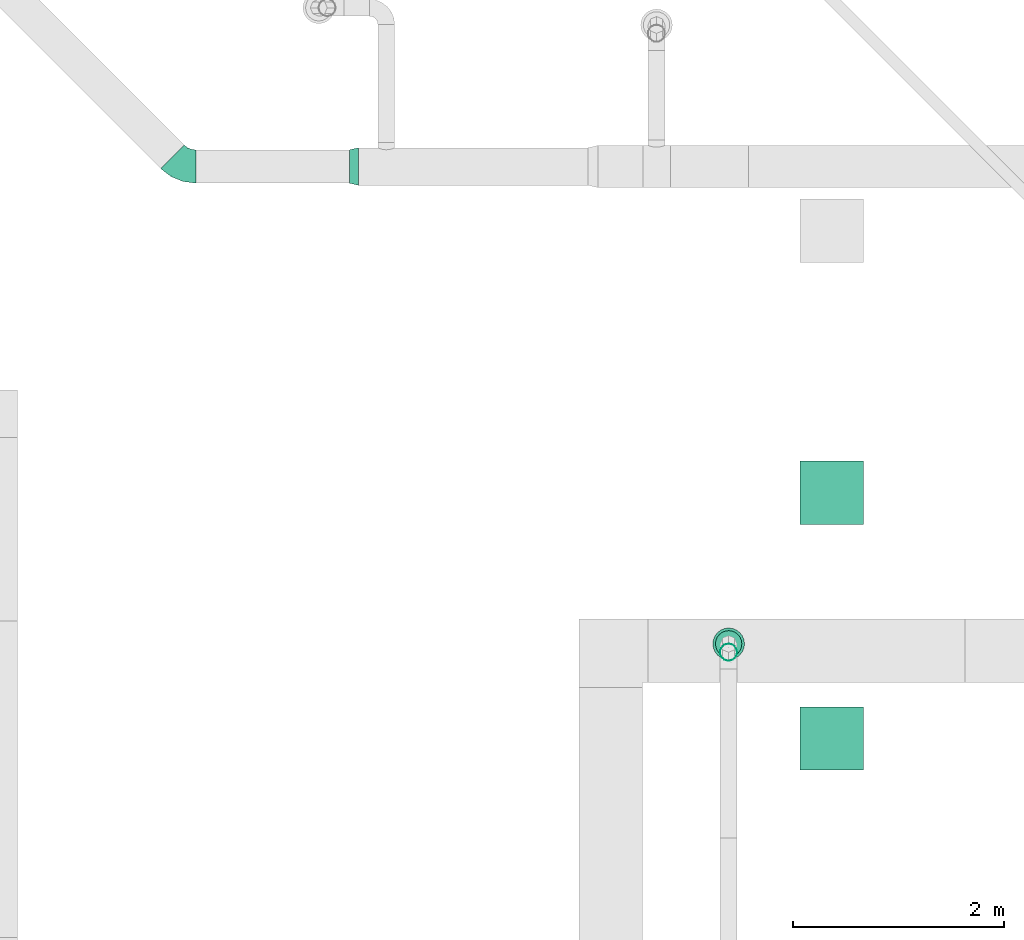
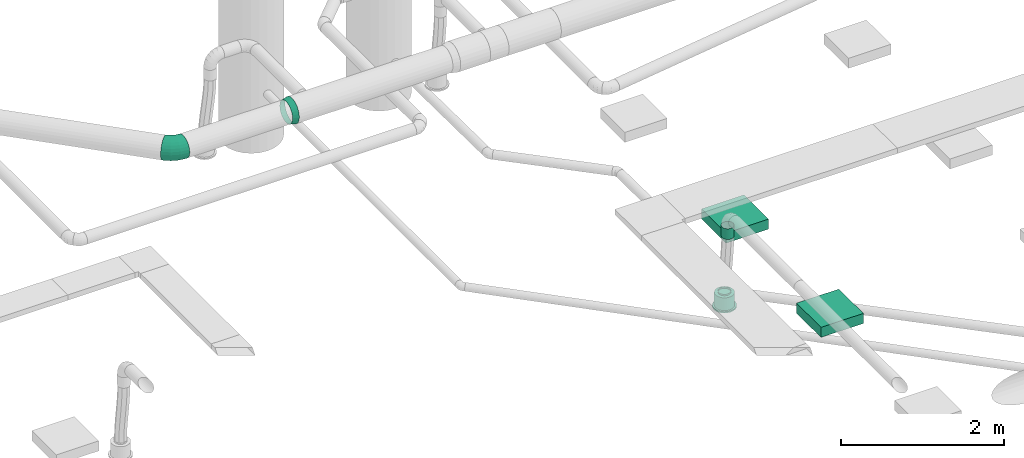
# One storey, part 143 of 374: 2 distribution elements, 2 flow fittings, 1 flow segment, 1 flow terminal.
"""IFC2X3 building model written with IfcOpenShell, lengths in metres."""

from ifc_helpers import new_model, si_unit, direction, frame, frame_2d, origin, place, context, subcontext, project, spatial, rectangle, extrude, open_shell, surface_model, source, transform, mapped, element, save


model = new_model("IFC2X3")

# Units and contexts
model_context = context("Model", 3, precision=1e-05, world=origin(), true_north=direction((-0.4480736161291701, 0.8939966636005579)))
body_context = subcontext(model_context, "Body", "Model", "MODEL_VIEW")
ifc_project = project(units=[si_unit("LENGTHUNIT", "METRE"), si_unit("AREAUNIT", "SQUARE_METRE"), si_unit("VOLUMEUNIT", "CUBIC_METRE"), si_unit("PLANEANGLEUNIT", "RADIAN"), si_unit("THERMODYNAMICTEMPERATUREUNIT", "KELVIN"), si_unit("MASSUNIT", "GRAM", prefix="KILO"), si_unit("TIMEUNIT", "SECOND")], contexts=[model_context])

# Site, building, storey
site_placement = place(None, origin())
site = spatial("IfcSite", under=ifc_project, at=site_placement, Name="Site 1", CompositionType="ELEMENT")
building_placement = place(site_placement, origin())
building = spatial("IfcBuilding", under=site, at=building_placement, Name="Undefined", CompositionType="ELEMENT")
storey_placement = place(building_placement, origin())
storey = spatial("IfcBuildingStorey", under=building, at=storey_placement, Name="Rez de chauss\x8ee", CompositionType="ELEMENT", Elevation=0.0)

# Flow terminal
shared_shape_1 = source(origin(), body_context, "Body", "SurfaceModel", [
    surface_model("IfcFaceBasedSurfaceModel", [(0.0, 0.0, 0.0), (0.03915785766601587, 0.0, 0.0), (0.03915785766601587, 0.020000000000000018, 0.0), (3.552713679e-15, 0.020000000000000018, 0.0), (0.07698144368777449, 0.0, -0.010134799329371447), (0.07698144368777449, 0.020000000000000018, -0.010134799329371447), (0.11089314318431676, 0.0, -0.02971372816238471), (0.11089314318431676, 0.020000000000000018, -0.02971372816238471), (0.13858192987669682, 0.0, -0.05740251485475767), (0.13858192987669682, 0.020000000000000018, -0.05740251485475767), (0.15816085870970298, 0.0, -0.09131421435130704), (0.15816085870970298, 0.020000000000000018, -0.09131421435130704), (0.16829565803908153, 0.0, -0.12913780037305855), (0.16829565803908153, 0.020000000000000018, -0.12913780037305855), (0.16829565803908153, 0.0, -0.16829565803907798), (0.16829565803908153, 0.020000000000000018, -0.16829565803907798), (0.15816085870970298, 0.0, -0.20611924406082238), (0.15816085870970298, 0.020000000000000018, -0.20611924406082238), (0.13858192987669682, 0.0, -0.24003094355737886), (0.13858192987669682, 0.020000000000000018, -0.24003094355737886), (0.11089314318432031, 0.0, -0.2677197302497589), (0.11089314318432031, 0.020000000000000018, -0.2677197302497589), (0.07698144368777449, 0.0, -0.2872986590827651), (0.07698144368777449, 0.020000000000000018, -0.2872986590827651), (0.039157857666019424, 0.0, -0.29743345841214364), (0.039157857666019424, 0.020000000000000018, -0.29743345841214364), (3.552713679e-15, 0.0, -0.29743345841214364), (3.552713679e-15, 0.020000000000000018, -0.29743345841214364), (-0.03782358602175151, 0.0, -0.2872986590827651), (-0.03782358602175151, 0.020000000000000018, -0.2872986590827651), (-0.07173528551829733, 0.0, -0.2677197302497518), (-0.07173528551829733, 0.020000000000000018, -0.2677197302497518), (-0.0994240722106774, 0.0, -0.24003094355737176), (-0.0994240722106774, 0.020000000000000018, -0.24003094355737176), (-0.11900300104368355, 0.0, -0.2061192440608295), (-0.11900300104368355, 0.020000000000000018, -0.2061192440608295), (-0.1291378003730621, 0.0, -0.16829565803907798), (-0.1291378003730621, 0.020000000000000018, -0.16829565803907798), (-0.1291378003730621, 0.0, -0.12913780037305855), (-0.1291378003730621, 0.020000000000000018, -0.12913780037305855), (-0.11900300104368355, 0.0, -0.09131421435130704), (-0.11900300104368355, 0.020000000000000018, -0.09131421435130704), (-0.0994240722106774, 0.0, -0.05740251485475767), (-0.0994240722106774, 0.020000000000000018, -0.05740251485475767), (-0.07173528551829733, 0.0, -0.029713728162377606), (-0.07173528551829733, 0.020000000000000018, -0.029713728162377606), (-0.03782358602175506, 0.0, -0.010134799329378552), (-0.03782358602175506, 0.020000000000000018, -0.010134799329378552), (0.019578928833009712, 0.0, -0.14871672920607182), (0.019578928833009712, 0.020000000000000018, -0.14871672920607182), (0.003263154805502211, 0.020000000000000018, -0.02478612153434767), (0.035894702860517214, 0.020000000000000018, -0.02478612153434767), (0.035894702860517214, 0.20999999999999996, -0.02478612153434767), (0.003263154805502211, 0.20999999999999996, -0.02478612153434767), (0.06741435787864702, 0.020000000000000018, -0.033231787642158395), (0.06741435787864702, 0.20999999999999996, -0.033231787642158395), (0.0956741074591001, 0.020000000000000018, -0.04954756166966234), (0.0956741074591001, 0.20999999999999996, -0.04954756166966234), (0.11874809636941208, 0.020000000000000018, -0.07262155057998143), (0.11874809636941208, 0.20999999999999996, -0.07262155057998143), (0.13506387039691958, 0.020000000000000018, -0.10088130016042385), (0.13506387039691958, 0.20999999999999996, -0.10088130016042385), (0.1435095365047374, 0.020000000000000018, -0.13240095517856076), (0.1435095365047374, 0.20999999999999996, -0.13240095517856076), (0.1435095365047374, 0.020000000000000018, -0.16503250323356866), (0.1435095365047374, 0.20999999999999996, -0.16503250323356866), (0.13506387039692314, 0.020000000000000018, -0.19655215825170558), (0.13506387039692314, 0.20999999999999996, -0.19655215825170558), (0.11874809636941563, 0.020000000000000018, -0.2248119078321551), (0.11874809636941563, 0.20999999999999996, -0.2248119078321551), (0.09567410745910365, 0.020000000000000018, -0.24788589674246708), (0.09567410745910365, 0.20999999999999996, -0.24788589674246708), (0.06741435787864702, 0.020000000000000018, -0.26420167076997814), (0.06741435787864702, 0.20999999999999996, -0.26420167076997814), (0.035894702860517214, 0.020000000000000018, -0.27264733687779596), (0.035894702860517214, 0.20999999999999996, -0.27264733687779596), (0.0032631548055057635, 0.020000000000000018, -0.27264733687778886), (0.0032631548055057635, 0.20999999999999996, -0.27264733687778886), (-0.028256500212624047, 0.020000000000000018, -0.26420167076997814), (-0.028256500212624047, 0.20999999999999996, -0.26420167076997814), (-0.05651624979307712, 0.020000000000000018, -0.2478858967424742), (-0.05651624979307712, 0.20999999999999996, -0.2478858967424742), (-0.07959023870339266, 0.020000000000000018, -0.2248119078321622), (-0.07959023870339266, 0.20999999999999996, -0.2248119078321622), (-0.09590601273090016, 0.020000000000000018, -0.19655215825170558), (-0.09590601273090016, 0.20999999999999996, -0.19655215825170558), (-0.10435167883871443, 0.020000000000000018, -0.16503250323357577), (-0.10435167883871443, 0.20999999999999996, -0.16503250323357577), (-0.10435167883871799, 0.020000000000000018, -0.13240095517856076), (-0.10435167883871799, 0.20999999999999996, -0.13240095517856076), (-0.09590601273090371, 0.020000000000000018, -0.10088130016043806), (-0.09590601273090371, 0.20999999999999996, -0.10088130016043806), (-0.07959023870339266, 0.020000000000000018, -0.07262155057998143), (-0.07959023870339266, 0.20999999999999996, -0.07262155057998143), (-0.056516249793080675, 0.020000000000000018, -0.04954756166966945), (-0.056516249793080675, 0.20999999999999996, -0.04954756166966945), (-0.028256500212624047, 0.020000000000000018, -0.033231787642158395), (-0.028256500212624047, 0.20999999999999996, -0.033231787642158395), (0.019578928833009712, 0.20999999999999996, -0.14871672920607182), (0.009136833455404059, 0.20999999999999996, -0.06940114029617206), (0.030021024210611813, 0.20999999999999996, -0.06940114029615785), (0.030021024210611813, 0.22999999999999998, -0.06940114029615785), (0.009136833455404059, 0.22999999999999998, -0.06940114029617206), (0.05019360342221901, 0.20999999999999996, -0.07480636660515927), (0.05019360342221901, 0.22999999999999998, -0.07480636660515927), (0.06827984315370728, 0.20999999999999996, -0.08524846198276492), (0.06827984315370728, 0.22999999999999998, -0.08524846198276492), (0.0830471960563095, 0.20999999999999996, -0.10001581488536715), (0.0830471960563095, 0.22999999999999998, -0.10001581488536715), (0.0934892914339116, 0.20999999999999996, -0.11810205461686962), (0.0934892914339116, 0.22999999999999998, -0.11810205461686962), (0.09889451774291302, 0.20999999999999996, -0.13827463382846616), (0.09889451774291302, 0.22999999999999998, -0.13827463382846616), (0.09889451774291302, 0.20999999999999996, -0.15915882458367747), (0.09889451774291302, 0.22999999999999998, -0.15915882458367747), (0.09348929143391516, 0.20999999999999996, -0.179331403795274), (0.09348929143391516, 0.22999999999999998, -0.179331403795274), (0.0830471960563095, 0.20999999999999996, -0.19741764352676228), (0.0830471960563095, 0.22999999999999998, -0.19741764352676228), (0.06827984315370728, 0.20999999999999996, -0.2121849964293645), (0.06827984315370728, 0.22999999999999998, -0.2121849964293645), (0.05019360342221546, 0.20999999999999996, -0.22262709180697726), (0.05019360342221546, 0.22999999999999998, -0.22262709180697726), (0.030021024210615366, 0.20999999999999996, -0.22803231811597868), (0.030021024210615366, 0.22999999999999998, -0.22803231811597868), (0.009136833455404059, 0.20999999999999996, -0.22803231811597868), (0.009136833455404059, 0.22999999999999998, -0.22803231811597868), (-0.011035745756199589, 0.20999999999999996, -0.22262709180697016), (-0.011035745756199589, 0.22999999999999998, -0.22262709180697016), (-0.0291219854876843, 0.20999999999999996, -0.2121849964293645), (-0.0291219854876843, 0.22999999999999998, -0.2121849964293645), (-0.043889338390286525, 0.20999999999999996, -0.19741764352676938), (-0.043889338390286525, 0.22999999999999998, -0.19741764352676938), (-0.05433143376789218, 0.20999999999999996, -0.17933140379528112), (-0.05433143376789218, 0.22999999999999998, -0.17933140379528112), (-0.05973666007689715, 0.20999999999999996, -0.15915882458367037), (-0.05973666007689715, 0.22999999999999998, -0.15915882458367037), (-0.0597366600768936, 0.20999999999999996, -0.13827463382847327), (-0.0597366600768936, 0.22999999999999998, -0.13827463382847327), (-0.05433143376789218, 0.20999999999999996, -0.11810205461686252), (-0.05433143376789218, 0.22999999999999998, -0.11810205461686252), (-0.043889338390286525, 0.20999999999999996, -0.10001581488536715), (-0.043889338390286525, 0.22999999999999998, -0.10001581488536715), (-0.02912198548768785, 0.20999999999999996, -0.08524846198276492), (-0.02912198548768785, 0.22999999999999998, -0.08524846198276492), (-0.011035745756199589, 0.20999999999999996, -0.07480636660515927), (-0.011035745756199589, 0.22999999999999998, -0.07480636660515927)], [open_shell([[[0, 1, 2, 3]], [[1, 4, 5, 2]], [[4, 6, 7, 5]], [[6, 8, 9, 7]], [[8, 10, 11, 9]], [[10, 12, 13, 11]], [[12, 14, 15, 13]], [[14, 16, 17, 15]], [[16, 18, 19, 17]], [[18, 20, 21, 19]], [[20, 22, 23, 21]], [[22, 24, 25, 23]], [[24, 26, 27, 25]], [[26, 28, 29, 27]], [[28, 30, 31, 29]], [[30, 32, 33, 31]], [[32, 34, 35, 33]], [[34, 36, 37, 35]], [[36, 38, 39, 37]], [[38, 40, 41, 39]], [[40, 42, 43, 41]], [[42, 44, 45, 43]], [[44, 46, 47, 45]], [[46, 0, 3, 47]], [[48, 1, 0]], [[48, 4, 1]], [[48, 6, 4]], [[48, 8, 6]], [[48, 10, 8]], [[48, 12, 10]], [[48, 14, 12]], [[48, 16, 14]], [[48, 18, 16]], [[48, 20, 18]], [[48, 22, 20]], [[48, 24, 22]], [[48, 26, 24]], [[48, 28, 26]], [[48, 30, 28]], [[48, 32, 30]], [[48, 34, 32]], [[48, 36, 34]], [[48, 38, 36]], [[48, 40, 38]], [[48, 42, 40]], [[48, 44, 42]], [[48, 46, 44]], [[48, 0, 46]], [[49, 47, 3]], [[49, 45, 47]], [[49, 43, 45]], [[49, 41, 43]], [[49, 39, 41]], [[49, 37, 39]], [[49, 35, 37]], [[49, 33, 35]], [[49, 31, 33]], [[49, 29, 31]], [[49, 27, 29]], [[49, 25, 27]], [[49, 23, 25]], [[49, 21, 23]], [[49, 19, 21]], [[49, 17, 19]], [[49, 15, 17]], [[49, 13, 15]], [[49, 11, 13]], [[49, 9, 11]], [[49, 7, 9]], [[49, 5, 7]], [[49, 2, 5]], [[49, 3, 2]], [[50, 51, 52, 53]], [[51, 54, 55, 52]], [[54, 56, 57, 55]], [[56, 58, 59, 57]], [[58, 60, 61, 59]], [[60, 62, 63, 61]], [[62, 64, 65, 63]], [[64, 66, 67, 65]], [[66, 68, 69, 67]], [[68, 70, 71, 69]], [[70, 72, 73, 71]], [[72, 74, 75, 73]], [[74, 76, 77, 75]], [[76, 78, 79, 77]], [[78, 80, 81, 79]], [[80, 82, 83, 81]], [[82, 84, 85, 83]], [[84, 86, 87, 85]], [[86, 88, 89, 87]], [[88, 90, 91, 89]], [[90, 92, 93, 91]], [[92, 94, 95, 93]], [[94, 96, 97, 95]], [[96, 50, 53, 97]], [[49, 51, 50]], [[49, 54, 51]], [[49, 56, 54]], [[49, 58, 56]], [[49, 60, 58]], [[49, 62, 60]], [[49, 64, 62]], [[49, 66, 64]], [[49, 68, 66]], [[49, 70, 68]], [[49, 72, 70]], [[49, 74, 72]], [[49, 76, 74]], [[49, 78, 76]], [[49, 80, 78]], [[49, 82, 80]], [[49, 84, 82]], [[49, 86, 84]], [[49, 88, 86]], [[49, 90, 88]], [[49, 92, 90]], [[49, 94, 92]], [[49, 96, 94]], [[49, 50, 96]], [[98, 97, 53]], [[98, 95, 97]], [[98, 93, 95]], [[98, 91, 93]], [[98, 89, 91]], [[98, 87, 89]], [[98, 85, 87]], [[98, 83, 85]], [[98, 81, 83]], [[98, 79, 81]], [[98, 77, 79]], [[98, 75, 77]], [[98, 73, 75]], [[98, 71, 73]], [[98, 69, 71]], [[98, 67, 69]], [[98, 65, 67]], [[98, 63, 65]], [[98, 61, 63]], [[98, 59, 61]], [[98, 57, 59]], [[98, 55, 57]], [[98, 52, 55]], [[98, 53, 52]], [[99, 100, 101, 102]], [[100, 103, 104, 101]], [[103, 105, 106, 104]], [[105, 107, 108, 106]], [[107, 109, 110, 108]], [[109, 111, 112, 110]], [[111, 113, 114, 112]], [[113, 115, 116, 114]], [[115, 117, 118, 116]], [[117, 119, 120, 118]], [[119, 121, 122, 120]], [[121, 123, 124, 122]], [[123, 125, 126, 124]], [[125, 127, 128, 126]], [[127, 129, 130, 128]], [[129, 131, 132, 130]], [[131, 133, 134, 132]], [[133, 135, 136, 134]], [[135, 137, 138, 136]], [[137, 139, 140, 138]], [[139, 141, 142, 140]], [[141, 143, 144, 142]], [[143, 145, 146, 144]], [[145, 99, 102, 146]]])]),
])
flow_terminal_placement = place(storey_placement, origin())
element("IfcFlowTerminal", 1, at=flow_terminal_placement, inside=storey, Name="Air diffuseur - bouche", ObjectType="Air diffuseur - bouche", context=body_context, shape_type="MappedRepresentation", body=[
    mapped(shared_shape_1, transform((34.97599586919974, 15.85834881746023, 2.38), x_axis=(0.9914448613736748, 0.13052619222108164, 0.0), y_axis=(0.0, 0.0, 1.0), z_axis=(0.13052619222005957, -0.9914448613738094, 0.0))),
])

# Flow fittings
shared_shape_2 = source(origin(), body_context, "Body", "SurfaceModel", [
    surface_model("IfcFaceBasedSurfaceModel", [(0.08732124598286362, 1.776356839e-15, 7.105427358e-15), (0.08593597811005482, 0.0463160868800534, 0.0), (-0.0012291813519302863, 0.04109737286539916, 4.4408921e-16), (0.0, 0.0, 0.0), (0.08187457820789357, 0.09097253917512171, -0.011679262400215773), (-0.004832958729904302, 0.08072211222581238, -0.010363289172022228), (0.07541382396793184, 0.13092609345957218, -0.0342418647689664), (-0.010565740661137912, 0.1161738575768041, -0.030383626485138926), (0.06699400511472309, 0.16345398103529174, -0.06615020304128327), (-0.018036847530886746, 0.1450366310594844, -0.05869665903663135), (0.05718891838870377, 0.18633948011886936, -0.1052297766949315), (-0.02673713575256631, 0.1653434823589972, -0.09337290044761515), (0.04666676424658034, 0.1980229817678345, -0.14881737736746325), (-0.03607369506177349, 0.17571053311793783, -0.1320492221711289), (0.03614461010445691, 0.1977082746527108, -0.19394258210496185), (-0.045410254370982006, 0.1754312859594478, -0.17208989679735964), (0.02633952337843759, 0.1854168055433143, -0.2375301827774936), (-0.05411054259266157, 0.16452477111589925, -0.2107662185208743), (0.017919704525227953, 0.16198621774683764, -0.2766097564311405), (-0.061581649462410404, 0.14373424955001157, -0.2454424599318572), (0.011458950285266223, 0.12901326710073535, -0.30851809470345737), (-0.06731443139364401, 0.11447656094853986, -0.2737554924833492), (0.007397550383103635, 0.08874500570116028, -0.3310806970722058), (-0.07091820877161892, 0.07874556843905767, -0.29377582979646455), (0.006012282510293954, 0.04392564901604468, -0.34275995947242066), (-0.0721473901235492, 0.03897628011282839, -0.3041391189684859), (0.007397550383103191, -0.002390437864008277, -0.3427599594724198), (-0.07091820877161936, -0.0021210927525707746, -0.30413911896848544), (0.011458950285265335, -0.04704689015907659, -0.331080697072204), (-0.0673144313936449, -0.041745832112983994, -0.29377582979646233), (0.01791970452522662, -0.08700044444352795, -0.3085180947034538), (-0.061581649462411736, -0.07719757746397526, -0.2737554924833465), (0.026339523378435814, -0.11952833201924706, -0.2766097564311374), (-0.0541105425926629, -0.106060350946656, -0.2454424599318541), (0.03614461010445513, -0.14241383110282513, -0.23753018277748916), (-0.04541025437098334, -0.12636720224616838, -0.21076621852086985), (0.04666676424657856, -0.15409733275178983, -0.1939425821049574), (-0.03607369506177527, -0.13673425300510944, -0.1720898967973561), (0.05718891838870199, -0.15378262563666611, -0.14881737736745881), (-0.026737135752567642, -0.13645500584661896, -0.13204922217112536), (0.06699400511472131, -0.14149115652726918, -0.10522977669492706), (-0.018036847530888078, -0.12554849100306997, -0.09337290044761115), (0.0754138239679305, -0.11806056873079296, -0.06615020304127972), (-0.010565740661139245, -0.1047579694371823, -0.05869665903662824), (0.08187457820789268, -0.08508761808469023, -0.03424186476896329), (-0.00483295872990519, -0.07550028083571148, -0.03038362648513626), (0.08593597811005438, -0.04481935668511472, -0.011679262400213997), (-0.0012291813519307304, -0.039769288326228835, -0.010363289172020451)], [open_shell([[[0, 1, 2, 3]], [[1, 4, 5, 2]], [[4, 6, 7, 5]], [[6, 8, 9, 7]], [[8, 10, 11, 9]], [[10, 12, 13, 11]], [[12, 14, 15, 13]], [[14, 16, 17, 15]], [[16, 18, 19, 17]], [[18, 20, 21, 19]], [[20, 22, 23, 21]], [[22, 24, 25, 23]], [[24, 26, 27, 25]], [[26, 28, 29, 27]], [[28, 30, 31, 29]], [[30, 32, 33, 31]], [[32, 34, 35, 33]], [[34, 36, 37, 35]], [[36, 38, 39, 37]], [[38, 40, 41, 39]], [[40, 42, 43, 41]], [[42, 44, 45, 43]], [[44, 46, 47, 45]], [[46, 0, 3, 47]]])]),
])
flow_fitting_1_placement = place(storey_placement, origin())
element("IfcFlowFitting", 2, at=flow_fitting_1_placement, inside=storey, Name="Réduction conique", ObjectType="Réduction conique", context=body_context, shape_type="MappedRepresentation", body=[
    mapped(shared_shape_2, transform((31.38490627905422, 20.684388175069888, 3.8000000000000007), x_axis=(0.9734171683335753, 0.22903933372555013, 0.0), y_axis=(0.029113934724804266, -0.12373422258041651, -0.9918882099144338), z_axis=(-0.22718141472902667, 0.9655210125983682, -0.12711325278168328))),
])
shared_shape_3 = source(origin(), body_context, "Body", "SurfaceModel", [
    surface_model("IfcFaceBasedSurfaceModel", [(0.12334725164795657, 0.0, -1.110223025e-15), (0.12264675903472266, 0.04110978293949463, -7.77156117e-16), (0.0007004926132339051, 0.041109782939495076, -7.77156117e-16), (0.0, 0.0, 0.0), (-0.1170905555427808, 0.04519480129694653, -0.031296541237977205), (-0.11914429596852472, 0.004131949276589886, -0.0316560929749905), (-0.22269912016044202, 0.05308645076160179, -0.0917568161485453), (-0.2259661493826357, 0.01211426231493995, -0.09281096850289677), (0.12059301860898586, 0.08079531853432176, -0.01055203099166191), (0.0027542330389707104, 0.08079531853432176, -0.01055203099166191), (-0.11106929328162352, 0.08474274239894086, -0.04079441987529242), (-0.21312067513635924, 0.09236857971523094, -0.09921822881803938), (0.11732598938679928, 0.11635210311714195, -0.03093698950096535), (0.006021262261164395, 0.1163521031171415, -0.030936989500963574), (-0.10149084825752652, 0.12008064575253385, -0.05950246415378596), (-0.19788356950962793, 0.12728363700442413, -0.11468672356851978), (0.11306831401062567, 0.14535700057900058, -0.05976567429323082), (0.010278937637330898, 0.14535700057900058, -0.05976567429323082), (-0.08900797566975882, 0.14880029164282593, -0.08614575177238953), (-0.17802618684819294, 0.15545221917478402, -0.13710814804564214), (0.10811014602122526, 0.16583337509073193, -0.09507345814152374), (0.015237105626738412, 0.16583337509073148, -0.09507345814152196), (-0.07447136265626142, 0.16894448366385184, -0.1189085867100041), (-0.15490177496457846, 0.17495468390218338, -0.16495451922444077), (0.10278937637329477, 0.17638579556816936, -0.13445417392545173), (0.020557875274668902, 0.17638579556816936, -0.1344541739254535), (-0.05887165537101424, 0.17914042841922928, -0.15555823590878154), (-0.13008622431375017, 0.18446197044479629, -0.1963281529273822), (0.09746860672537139, 0.17629513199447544, -0.17522409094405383), (0.025878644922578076, 0.17629513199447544, -0.17522409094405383), (-0.043271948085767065, 0.17869328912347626, -0.19359708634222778), (-0.10527067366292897, 0.18332617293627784, -0.22909098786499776), (0.09251043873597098, 0.1655675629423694, -0.2146048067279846), (0.030836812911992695, 0.1655675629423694, -0.21460480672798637), (-0.028735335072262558, 0.1676335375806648, -0.2304328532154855), (-0.0821462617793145, 0.17162469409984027, -0.261010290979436), (0.08825276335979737, 0.14493415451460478, -0.24991259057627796), (0.0350944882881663, 0.14493415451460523, -0.2499125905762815), (-0.01625246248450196, 0.1467148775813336, -0.2635552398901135), (-0.06228887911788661, 0.15015497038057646, -0.28991081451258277), (0.08498573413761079, 0.11580103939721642, -0.27874127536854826), (0.03836151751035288, 0.11580103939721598, -0.2787412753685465), (-0.0066740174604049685, 0.11736288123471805, -0.2907070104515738), (-0.0470517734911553, 0.12038012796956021, -0.3138230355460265), (0.08293199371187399, 0.08015359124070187, -0.2991262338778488), (0.04041525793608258, 0.08015359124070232, -0.2991262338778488), (-0.0006527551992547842, 0.08157783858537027, -0.31003781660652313), (-0.037473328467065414, 0.08432927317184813, -0.3311173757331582), (0.08223150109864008, 0.040421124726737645, -0.30967826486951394), (0.0411157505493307, 0.040421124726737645, -0.30967826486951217), (0.001400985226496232, 0.04179844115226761, -0.32023029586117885), (-0.03420629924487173, 0.044459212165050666, -0.34061525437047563), (0.08293199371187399, -0.0006886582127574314, -0.3096782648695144), (0.04041525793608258, -0.0006886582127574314, -0.3096782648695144), (-0.0006527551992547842, 0.0007355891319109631, -0.3205898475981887), (-0.037473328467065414, 0.0034870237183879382, -0.34166940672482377), (0.08498573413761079, -0.040374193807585, -0.29912623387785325), (0.03836151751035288, -0.040374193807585, -0.2991262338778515), (-0.0066740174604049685, -0.03881235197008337, -0.3110919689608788), (-0.0470517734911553, -0.03579510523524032, -0.33420799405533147), (0.08825276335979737, -0.07593097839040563, -0.2787412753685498), (0.0350944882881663, -0.07593097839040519, -0.27874127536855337), (-0.01625246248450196, -0.0741502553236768, -0.29238392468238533), (-0.06228887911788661, -0.07071016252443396, -0.3187394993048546), (0.09251043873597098, -0.10493587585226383, -0.2499125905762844), (0.030836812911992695, -0.10493587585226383, -0.24991259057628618), (-0.028735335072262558, -0.10286990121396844, -0.2657406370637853), (-0.0821462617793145, -0.09887874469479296, -0.2963180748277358), (0.09746860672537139, -0.12541225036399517, -0.21460480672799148), (0.025878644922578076, -0.12541225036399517, -0.21460480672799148), (-0.043271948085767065, -0.12301409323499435, -0.23297780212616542), (-0.10527067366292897, -0.11838120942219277, -0.2684717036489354), (0.10278937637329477, -0.13596467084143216, -0.1752240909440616), (0.020557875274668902, -0.13596467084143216, -0.17522409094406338), (-0.05887165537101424, -0.1332100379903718, -0.19632815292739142), (-0.13008622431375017, -0.12788849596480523, -0.23709806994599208), (0.10811014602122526, -0.13587400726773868, -0.13445417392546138), (0.015237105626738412, -0.13587400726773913, -0.1344541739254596), (-0.07447136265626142, -0.13276289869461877, -0.15828930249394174), (-0.15490177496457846, -0.12675269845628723, -0.2043352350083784), (0.11306831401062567, -0.12514643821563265, -0.09507345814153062), (0.010278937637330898, -0.12514643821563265, -0.09507345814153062), (-0.08900797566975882, -0.1217031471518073, -0.12145353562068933), (-0.17802618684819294, -0.11505121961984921, -0.17241593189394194), (0.11732598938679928, -0.10451302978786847, -0.05976567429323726), (0.006021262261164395, -0.10451302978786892, -0.05976567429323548), (-0.10149084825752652, -0.10078448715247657, -0.08833114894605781), (-0.19788356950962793, -0.09358149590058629, -0.14351540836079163), (0.12059301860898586, -0.07537991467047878, -0.030936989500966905), (0.0027542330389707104, -0.07537991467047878, -0.030936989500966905), (-0.11106929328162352, -0.07143249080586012, -0.06117937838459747), (-0.21312067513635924, -0.06380665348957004, -0.11960318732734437), (0.12264675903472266, -0.039732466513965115, -0.010552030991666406), (0.0007004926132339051, -0.039732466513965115, -0.010552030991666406), (-0.1170905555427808, -0.03564744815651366, -0.04184857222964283), (-0.22269912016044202, -0.027755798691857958, -0.10230884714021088)], [open_shell([[[0, 1, 2, 3]], [[3, 2, 4, 5]], [[5, 4, 6, 7]], [[1, 8, 9, 2]], [[2, 9, 10, 4]], [[4, 10, 11, 6]], [[8, 12, 13, 9]], [[9, 13, 14, 10]], [[10, 14, 15, 11]], [[12, 16, 17, 13]], [[13, 17, 18, 14]], [[14, 18, 19, 15]], [[16, 20, 21, 17]], [[17, 21, 22, 18]], [[18, 22, 23, 19]], [[20, 24, 25, 21]], [[21, 25, 26, 22]], [[22, 26, 27, 23]], [[24, 28, 29, 25]], [[25, 29, 30, 26]], [[26, 30, 31, 27]], [[28, 32, 33, 29]], [[29, 33, 34, 30]], [[30, 34, 35, 31]], [[32, 36, 37, 33]], [[33, 37, 38, 34]], [[34, 38, 39, 35]], [[36, 40, 41, 37]], [[37, 41, 42, 38]], [[38, 42, 43, 39]], [[40, 44, 45, 41]], [[41, 45, 46, 42]], [[42, 46, 47, 43]], [[44, 48, 49, 45]], [[45, 49, 50, 46]], [[46, 50, 51, 47]], [[48, 52, 53, 49]], [[49, 53, 54, 50]], [[50, 54, 55, 51]], [[52, 56, 57, 53]], [[53, 57, 58, 54]], [[54, 58, 59, 55]], [[56, 60, 61, 57]], [[57, 61, 62, 58]], [[58, 62, 63, 59]], [[60, 64, 65, 61]], [[61, 65, 66, 62]], [[62, 66, 67, 63]], [[64, 68, 69, 65]], [[65, 69, 70, 66]], [[66, 70, 71, 67]], [[68, 72, 73, 69]], [[69, 73, 74, 70]], [[70, 74, 75, 71]], [[72, 76, 77, 73]], [[73, 77, 78, 74]], [[74, 78, 79, 75]], [[76, 80, 81, 77]], [[77, 81, 82, 78]], [[78, 82, 83, 79]], [[80, 84, 85, 81]], [[81, 85, 86, 82]], [[82, 86, 87, 83]], [[84, 88, 89, 85]], [[85, 89, 90, 86]], [[86, 90, 91, 87]], [[88, 92, 93, 89]], [[89, 93, 94, 90]], [[90, 94, 95, 91]], [[92, 0, 3, 93]], [[93, 3, 5, 94]], [[94, 5, 7, 95]]])]),
])
flow_fitting_2_placement = place(storey_placement, origin())
element("IfcFlowFitting", 3, at=flow_fitting_2_placement, inside=storey, Name="Coude", ObjectType="Coude", context=body_context, shape_type="MappedRepresentation", body=[
    mapped(shared_shape_3, transform((29.809847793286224, 20.385488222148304, 3.8000000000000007), x_axis=(0.9914448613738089, -0.13052619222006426, 0.0), y_axis=(0.016893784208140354, 0.12832103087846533, 0.9915887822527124), z_axis=(-0.1294283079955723, -0.9831056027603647, 0.12942830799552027))),
])

# Flow segment
shared_shape_4 = source(origin(), body_context, "Body", "SurfaceModel", [
    surface_model("IfcFaceBasedSurfaceModel", [(0.0, 0.020884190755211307, 0.0), (0.0, 0.0, 0.0), (0.16000000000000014, 0.0, -4.4408921e-16), (0.16000000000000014, 0.0208841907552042, -4.4408921e-16), (0.0, -0.020172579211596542, -0.005405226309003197), (0.16000000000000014, -0.020172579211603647, -0.005405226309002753), (0.0, -0.03825881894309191, -0.015847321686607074), (0.16000000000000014, -0.03825881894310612, -0.015847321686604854), (0.0, -0.05302617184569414, -0.0306146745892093), (0.16000000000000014, -0.05302617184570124, -0.03061467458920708), (0.0, -0.06346826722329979, -0.04870091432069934), (0.16000000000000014, -0.0634682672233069, -0.04870091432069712), (0.0, -0.06887349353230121, -0.06887349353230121), (0.16000000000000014, -0.06887349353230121, -0.06887349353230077), (0.0, -0.06887349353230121, -0.08975768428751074), (0.16000000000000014, -0.06887349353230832, -0.08975768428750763), (0.0, -0.06346826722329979, -0.10993026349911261), (0.16000000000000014, -0.0634682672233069, -0.10993026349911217), (0.0, -0.05302617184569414, -0.12801650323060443), (0.16000000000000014, -0.05302617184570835, -0.1280165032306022), (0.0, -0.038258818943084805, -0.14278385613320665), (0.16000000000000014, -0.03825881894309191, -0.14278385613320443), (0.0, -0.020172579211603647, -0.15322595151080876), (0.16000000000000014, -0.020172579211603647, -0.1532259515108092), (0.0, 7.105427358e-15, -0.15863117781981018), (0.16000000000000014, -7.105427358e-15, -0.15863117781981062), (0.0, 0.020884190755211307, -0.15863117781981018), (0.16000000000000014, 0.0208841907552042, -0.15863117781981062), (0.0, 0.04105676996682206, -0.15322595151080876), (0.16000000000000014, 0.04105676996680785, -0.1532259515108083), (0.0, 0.05914300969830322, -0.1427838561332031), (0.16000000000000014, 0.05914300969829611, -0.14278385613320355), (0.0, 0.07391036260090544, -0.12801650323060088), (0.16000000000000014, 0.07391036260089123, -0.1280165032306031), (0.0, 0.0843524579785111, -0.10993026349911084), (0.16000000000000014, 0.08435245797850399, -0.10993026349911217), (0.0, 0.08975768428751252, -0.08975768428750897), (0.16000000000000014, 0.08975768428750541, -0.08975768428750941), (0.0, 0.08975768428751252, -0.06887349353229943), (0.16000000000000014, 0.08975768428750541, -0.06887349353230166), (0.0, 0.0843524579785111, -0.048700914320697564), (0.16000000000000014, 0.08435245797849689, -0.04870091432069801), (0.0, 0.07391036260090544, -0.030614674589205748), (0.16000000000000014, 0.07391036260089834, -0.03061467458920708), (0.0, 0.05914300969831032, -0.015847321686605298), (0.16000000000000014, 0.05914300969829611, -0.01584732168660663), (0.0, 0.04105676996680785, -0.005405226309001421), (0.16000000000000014, 0.04105676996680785, -0.005405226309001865)], [open_shell([[[0, 1, 2, 3]], [[1, 4, 5, 2]], [[4, 6, 7, 5]], [[6, 8, 9, 7]], [[8, 10, 11, 9]], [[10, 12, 13, 11]], [[12, 14, 15, 13]], [[14, 16, 17, 15]], [[16, 18, 19, 17]], [[18, 20, 21, 19]], [[20, 22, 23, 21]], [[22, 24, 25, 23]], [[24, 26, 27, 25]], [[26, 28, 29, 27]], [[28, 30, 31, 29]], [[30, 32, 33, 31]], [[32, 34, 35, 33]], [[34, 36, 37, 35]], [[36, 38, 39, 37]], [[38, 40, 41, 39]], [[40, 42, 43, 41]], [[42, 44, 45, 43]], [[44, 46, 47, 45]], [[46, 0, 3, 47]]])]),
])
flow_segment_placement = place(storey_placement, origin())
element("IfcFlowSegment", 4, at=flow_segment_placement, inside=storey, Name="Tube", ObjectType="Tube", context=body_context, shape_type="MappedRepresentation", body=[
    mapped(shared_shape_4, transform((34.99670139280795, 15.851074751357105, 3.4800000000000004), x_axis=(0.0, 0.0, 1.0), y_axis=(-0.9914448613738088, -0.13052619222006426, 0.0), z_axis=(0.13052619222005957, -0.9914448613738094, 0.0))),
])

# Distribution elements
distribution_element_1_placement = place(storey_placement, origin())
element("IfcDistributionElement", 5, at=distribution_element_1_placement, inside=storey, Name="Decken-Rechteckleuchte mit Rahmen AP", ObjectType="Decken-Rechteckleuchte mit Rahmen AP", context=body_context, shape_type="SweptSolid", body=[
    extrude(rectangle(XDim=0.6000000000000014, YDim=0.6000000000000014, at=frame_2d((3.552713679e-15, 0.0), x_axis=(0.0, 1.0))), frame((35.95181062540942, 17.437499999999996, 2.5500000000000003), z_axis=(0.0, 0.0, -1.0), x_axis=(1.0, 0.0, 0.0)), (0.0, 0.0, 1.0), 0.15),
])
distribution_element_2_placement = place(storey_placement, origin())
element("IfcDistributionElement", 6, at=distribution_element_2_placement, inside=storey, Name="Decken-Rechteckleuchte mit Rahmen AP", ObjectType="Decken-Rechteckleuchte mit Rahmen AP", context=body_context, shape_type="SweptSolid", body=[
    extrude(rectangle(XDim=0.6000000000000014, YDim=0.6000000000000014, at=frame_2d((3.552713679e-15, 0.0), x_axis=(0.0, 1.0))), frame((35.95181062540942, 15.1125, 2.5500000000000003), z_axis=(0.0, 0.0, -1.0), x_axis=(1.0, 0.0, 0.0)), (0.0, 0.0, 1.0), 0.15),
])

save(model, "model.ifc")
